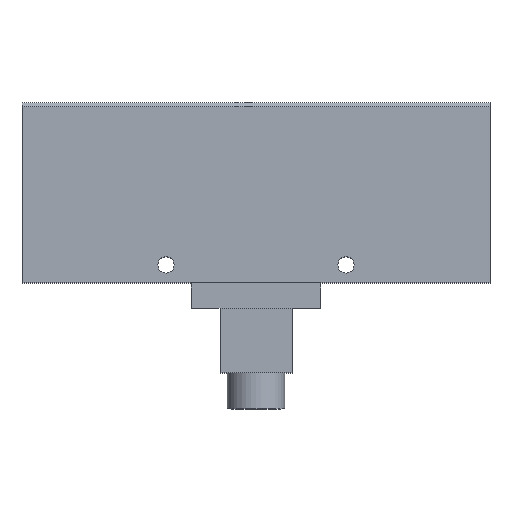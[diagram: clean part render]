
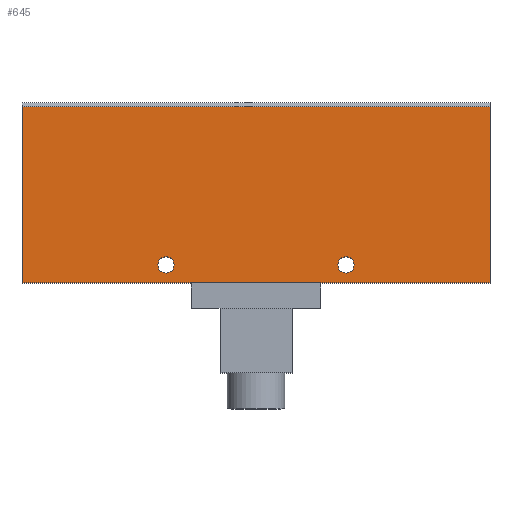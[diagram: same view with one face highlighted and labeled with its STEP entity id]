
A CAD part, top view. The second image highlights one B-rep face of the part: STEP entity #645.
In plain terms, the highlighted planar face has unit normal (0, 0, 1).
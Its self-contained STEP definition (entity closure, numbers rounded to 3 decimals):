
#28=FACE_BOUND('',#128,.T.);
#29=FACE_BOUND('',#129,.T.);
#43=PLANE('',#711);
#82=FACE_OUTER_BOUND('',#127,.T.);
#127=EDGE_LOOP('',(#527,#528,#529,#530));
#128=EDGE_LOOP('',(#531));
#129=EDGE_LOOP('',(#532));
#157=LINE('',#936,#232);
#162=LINE('',#946,#237);
#183=LINE('',#998,#258);
#185=LINE('',#1001,#260);
#232=VECTOR('',#761,10.);
#237=VECTOR('',#768,10.);
#258=VECTOR('',#819,10.);
#260=VECTOR('',#823,10.);
#306=CIRCLE('',#699,2.25);
#308=CIRCLE('',#702,2.25);
#316=VERTEX_POINT('',#929);
#319=VERTEX_POINT('',#934);
#323=VERTEX_POINT('',#944);
#330=VERTEX_POINT('',#964);
#332=VERTEX_POINT('',#970);
#339=VERTEX_POINT('',#997);
#377=EDGE_CURVE('',#319,#316,#157,.T.);
#382=EDGE_CURVE('',#323,#319,#162,.T.);
#391=EDGE_CURVE('',#330,#330,#306,.T.);
#394=EDGE_CURVE('',#332,#332,#308,.T.);
#407=EDGE_CURVE('',#339,#316,#183,.T.);
#409=EDGE_CURVE('',#339,#323,#185,.T.);
#527=ORIENTED_EDGE('',*,*,#377,.F.);
#528=ORIENTED_EDGE('',*,*,#382,.F.);
#529=ORIENTED_EDGE('',*,*,#409,.F.);
#530=ORIENTED_EDGE('',*,*,#407,.T.);
#531=ORIENTED_EDGE('',*,*,#391,.T.);
#532=ORIENTED_EDGE('',*,*,#394,.T.);
#645=ADVANCED_FACE('',(#82,#28,#29),#43,.T.);
#699=AXIS2_PLACEMENT_3D('',#965,#783,#784);
#702=AXIS2_PLACEMENT_3D('',#971,#790,#791);
#711=AXIS2_PLACEMENT_3D('',#1000,#821,#822);
#761=DIRECTION('',(1.,0.,0.));
#768=DIRECTION('',(0.,1.,0.));
#783=DIRECTION('center_axis',(0.,0.,-1.));
#784=DIRECTION('ref_axis',(1.,0.,0.));
#790=DIRECTION('center_axis',(0.,0.,-1.));
#791=DIRECTION('ref_axis',(1.,0.,0.));
#819=DIRECTION('',(0.,1.,0.));
#821=DIRECTION('center_axis',(0.,0.,1.));
#822=DIRECTION('ref_axis',(1.,0.,0.));
#823=DIRECTION('',(-1.,0.,0.));
#929=CARTESIAN_POINT('',(65.,84.,2.));
#934=CARTESIAN_POINT('',(-65.,84.,2.));
#936=CARTESIAN_POINT('',(-32.5,84.,2.));
#944=CARTESIAN_POINT('',(-65.,35.,2.));
#946=CARTESIAN_POINT('',(-65.,35.,2.));
#964=CARTESIAN_POINT('',(-27.25,40.,2.));
#965=CARTESIAN_POINT('Origin',(-25.,40.,2.));
#970=CARTESIAN_POINT('',(22.75,40.,2.));
#971=CARTESIAN_POINT('Origin',(25.,40.,2.));
#997=CARTESIAN_POINT('',(65.,35.,2.));
#998=CARTESIAN_POINT('',(65.,35.,2.));
#1000=CARTESIAN_POINT('Origin',(-65.,35.,2.));
#1001=CARTESIAN_POINT('',(65.,35.,2.));
